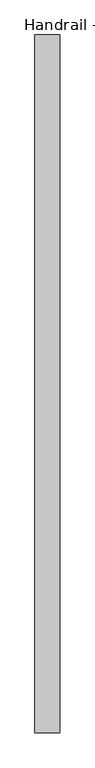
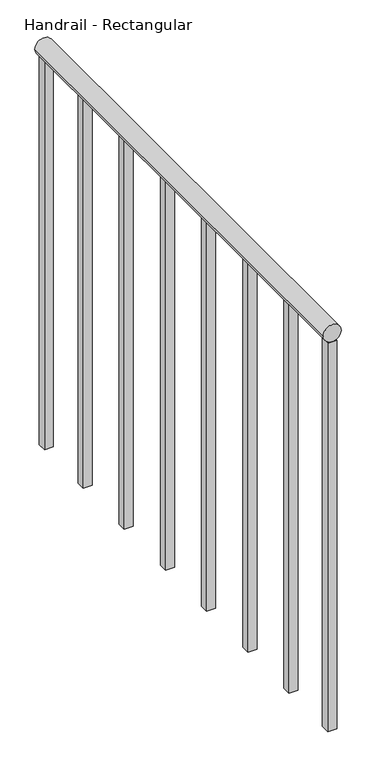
"""IFC4 building model written with IfcOpenShell, lengths in millimetres: railing geometry, Handrail - Rectangular."""

from ifc_helpers import new_model, si_unit, point, frame, frame_2d, origin, place, context, project, spatial, polyline, circle_curve, trimmed, segment, composite_curve, outline, extrude, source, transform, mapped, element, save


def handrail_rectangular_5d3df7b5(model_context):
    return source(origin(), model_context, "Body", "SweptSolid", [
        extrude(outline(composite_curve([segment(trimmed(circle_curve(frame_2d((10039.35, 2297.1410437)), 19.05), [point((10039.35, 2316.1910437))], [point((10039.35, 2278.0910437))], False, "CARTESIAN"), True, "CONTINUOUS"), segment(trimmed(circle_curve(frame_2d((10039.35, 2297.1410437)), 19.05), [point((10039.35, 2278.0910437))], [point((10039.35, 2316.1910437))], False, "CARTESIAN"), True, "CONTINUOUS")], self_intersect=False)), frame((0.0, -31539.9683133, 0.0), z_axis=(0.0, 1.0, 0.0), x_axis=(0.0, 0.0, 1.0)), (0.0, 0.0, 1.0), 1066.8),
        extrude(outline(polyline([(2287.6160437, -30635.0933133), (2287.6160437, -30616.0433133), (2306.6660437, -30616.0433133), (2306.6660437, -30635.0933133), (2287.6160437, -30635.0933133)])), frame((0.0, 0.0, 9144.0), z_axis=(0.0, 0.0, 1.0), x_axis=(1.0, 0.0, 0.0)), (0.0, 0.0, 1.0), 876.3),
        extrude(outline(polyline([(2287.6160437, -30787.4933133), (2287.6160437, -30768.4433133), (2306.6660437, -30768.4433133), (2306.6660437, -30787.4933133), (2287.6160437, -30787.4933133)])), frame((0.0, 0.0, 9144.0), z_axis=(0.0, 0.0, 1.0), x_axis=(1.0, 0.0, 0.0)), (0.0, 0.0, 1.0), 876.3),
        extrude(outline(polyline([(2287.6160437, -30939.8933133), (2287.6160437, -30920.8433133), (2306.6660437, -30920.8433133), (2306.6660437, -30939.8933133), (2287.6160437, -30939.8933133)])), frame((0.0, 0.0, 9144.0), z_axis=(0.0, 0.0, 1.0), x_axis=(1.0, 0.0, 0.0)), (0.0, 0.0, 1.0), 876.3),
        extrude(outline(polyline([(2287.6160437, -31092.2933133), (2287.6160437, -31073.2433133), (2306.6660437, -31073.2433133), (2306.6660437, -31092.2933133), (2287.6160437, -31092.2933133)])), frame((0.0, 0.0, 9144.0), z_axis=(0.0, 0.0, 1.0), x_axis=(1.0, 0.0, 0.0)), (0.0, 0.0, 1.0), 876.3),
        extrude(outline(polyline([(2287.6160437, -31244.6933133), (2287.6160437, -31225.6433133), (2306.6660437, -31225.6433133), (2306.6660437, -31244.6933133), (2287.6160437, -31244.6933133)])), frame((0.0, 0.0, 9144.0), z_axis=(0.0, 0.0, 1.0), x_axis=(1.0, 0.0, 0.0)), (0.0, 0.0, 1.0), 876.3),
        extrude(outline(polyline([(2287.6160437, -31397.0933133), (2287.6160437, -31378.0433133), (2306.6660437, -31378.0433133), (2306.6660437, -31397.0933133), (2287.6160437, -31397.0933133)])), frame((0.0, 0.0, 9144.0), z_axis=(0.0, 0.0, 1.0), x_axis=(1.0, 0.0, 0.0)), (0.0, 0.0, 1.0), 876.3),
        extrude(outline(polyline([(2287.6160437, -30492.2183133), (2287.6160437, -30473.1683133), (2306.6660437, -30473.1683133), (2306.6660437, -30492.2183133), (2287.6160437, -30492.2183133)])), frame((0.0, 0.0, 9144.0), z_axis=(0.0, 0.0, 1.0), x_axis=(1.0, 0.0, 0.0)), (0.0, 0.0, 1.0), 876.3),
        extrude(outline(polyline([(2287.6160437, -31539.9683133), (2287.6160437, -31520.9183133), (2306.6660437, -31520.9183133), (2306.6660437, -31539.9683133), (2287.6160437, -31539.9683133)])), frame((0.0, 0.0, 9144.0), z_axis=(0.0, 0.0, 1.0), x_axis=(1.0, 0.0, 0.0)), (0.0, 0.0, 1.0), 876.3),
    ])


if __name__ == "__main__":
    model = new_model("IFC4")
    model_context = context("Model", 3, world=origin())
    ifc_project = project(units=[si_unit("LENGTHUNIT", "METRE", prefix="MILLI")], contexts=[model_context])
    site = spatial("IfcSite", under=ifc_project)
    building = spatial("IfcBuilding", under=site)
    placement = place(None, origin())
    handrail_rectangular_shape = handrail_rectangular_5d3df7b5(model_context)
    element("IfcRailing", 1, ObjectType="Handrail - Rectangular", at=placement, inside=building, context=model_context, shape_type="MappedRepresentation", body=[
        mapped(handrail_rectangular_shape, transform((0.0, 0.0, 0.0), x_axis=(1.0, 0.0, 0.0), y_axis=(0.0, 1.0, 0.0), z_axis=(0.0, 0.0, 1.0))),
    ])
    save(model, "model.ifc")
